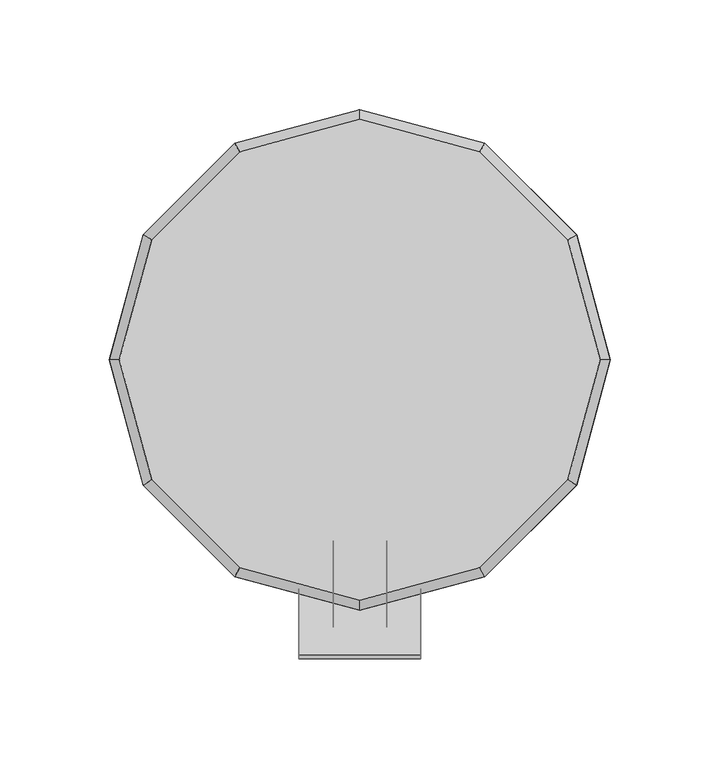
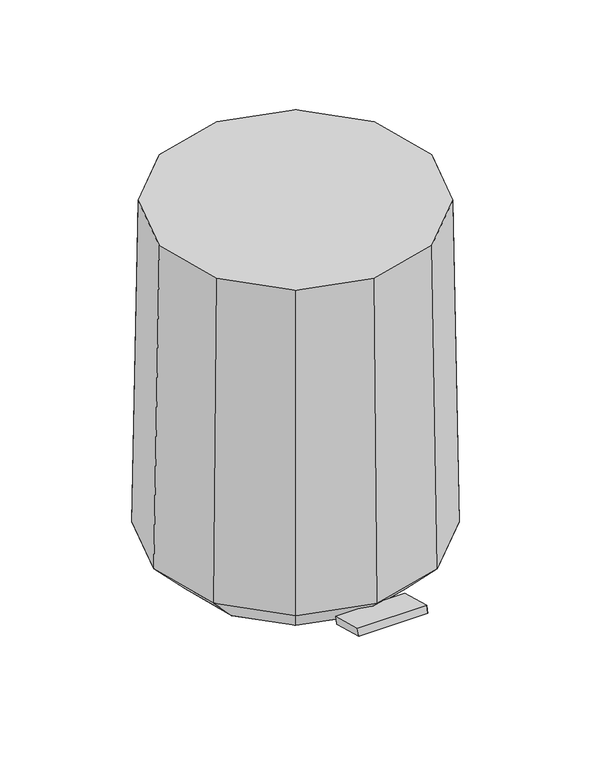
"""IFC4 building model written with IfcOpenShell, lengths in millimetres: geographic element geometry, Enscape AssetDefinition - Garbage Can 006 Bathroom : Enscape AssetDefinition - Garbage Can 006 Bathroom."""

from ifc_helpers import new_model, si_unit, origin, place, context, project, spatial, triangles, source, transform, mapped, element, save


def geographic_element_73b1dc01(model_context):
    return source(origin(), model_context, "Body", "Tessellation", [
        triangles([(114.346963, 0.0, 25.8838216), (99.0271041, 57.1731272, 25.8838216), (95.0701509, 54.8886918, 300.0000205), (88.8908587, 0.0, 0.0), (109.7773836, 0.0, 300.0000205), (76.9816202, -44.4454294, 0.0), (99.0271041, -57.1738312, 25.8838216), (57.1731272, -99.0271041, 25.8838216), (76.9816202, 44.4454294, 0.0), (44.4454294, 76.9816202, 0.0), (57.1731272, 99.0271041, 25.8838216), (0.0, 88.8908587, 0.0), (-44.4454294, 76.9816202, 0.0), (-54.8886918, 95.0701509, 300.0000205), (0.0, 109.7773836, 300.0000205), (0.0, 114.346963, 25.8838216), (-95.0701509, 54.8886918, 300.0000205), (54.8886918, 95.0701509, 300.0000205), (-99.0271041, 57.1731272, 25.8838216), (-57.1731272, 99.0271041, 25.8838216), (-76.9816202, 44.4454294, 0.0), (0.0, 0.0, 0.0), (-88.8908587, 0.0, 0.0), (-76.9816202, -44.4454294, 0.0), (-114.346963, 0.0, 25.8838216), (-99.0271041, -57.1731272, 25.8838216), (-44.4454294, -76.9816202, 0.0), (-57.1738312, -99.0271041, 25.8838216), (0.0, -88.8908587, 0.0), (-109.7773836, 0.0, 300.0000205), (-95.0701509, -54.8886918, 300.0000205), (-54.8886918, -95.0701509, 300.0000205), (0.0, -109.7773836, 300.0000205), (54.8886918, -95.0701509, 300.0000205), (0.0, -114.346963, 25.8838216), (95.0701509, -54.8886918, 300.0000205), (44.4454294, -76.9816202, 0.0), (27.9100924, -106.0695158, 12.678858), (27.9100924, -136.3987147, 20.8055796), (27.9100924, -104.440273, 18.7597708), (27.9100924, -134.7687815, 26.8864902), (-27.9100924, -106.0695158, 12.678858), (-27.9100924, -136.3987147, 20.8055796), (-27.9100924, -104.440273, 18.7597708), (-27.9100924, -134.7687815, 26.8864902), (-12.2106657, -120.2178528, 14.6960597), (-12.2106657, -83.1511473, 2.8852061), (12.2106657, -83.1511473, 2.8852061), (-12.2106657, -122.2078385, 19.013053), (-12.2106657, -82.5336341, 6.3739682), (12.2106657, -122.2078385, 19.013053), (12.2106657, -82.5336341, 6.3739682), (12.2106657, -120.2178528, 14.6960597)], [[53, 48, 52], [52, 51, 53], [51, 52, 50], [50, 49, 51], [51, 49, 46], [46, 53, 51], [48, 53, 46], [46, 47, 48], [49, 50, 47], [47, 46, 49], [45, 41, 40], [40, 44, 45], [45, 44, 42], [41, 45, 43], [42, 43, 45], [40, 41, 39], [43, 39, 41], [44, 40, 38], [38, 42, 44], [39, 38, 40], [43, 42, 38], [38, 39, 43], [8, 37, 6], [37, 8, 35], [36, 34, 8], [34, 33, 35], [35, 8, 34], [18, 30, 34], [30, 32, 34], [32, 33, 34], [30, 31, 32], [33, 32, 28], [28, 35, 33], [35, 29, 37], [29, 35, 28], [28, 27, 29], [27, 28, 26], [32, 31, 26], [26, 28, 32], [31, 30, 25], [25, 26, 31], [26, 24, 27], [24, 26, 25], [27, 24, 22], [29, 27, 22], [37, 29, 22], [6, 37, 22], [25, 23, 24], [24, 23, 22], [23, 25, 19], [30, 17, 19], [19, 25, 30], [19, 21, 23], [23, 21, 22], [21, 13, 22], [20, 13, 21], [21, 19, 20], [20, 19, 17], [18, 14, 30], [14, 17, 30], [17, 14, 20], [18, 15, 14], [13, 20, 16], [14, 15, 16], [16, 20, 14], [16, 12, 13], [13, 12, 22], [12, 16, 11], [15, 18, 11], [11, 16, 15], [2, 11, 18], [11, 10, 12], [10, 11, 2], [12, 10, 22], [2, 9, 10], [10, 9, 22], [4, 6, 22], [9, 4, 22], [7, 6, 4], [6, 7, 8], [8, 7, 36], [36, 5, 34], [5, 18, 34], [5, 36, 7], [5, 3, 18], [18, 3, 2], [4, 1, 7], [1, 4, 9], [9, 2, 1], [7, 1, 5], [3, 5, 1], [1, 2, 3]], closed=False),
    ])


if __name__ == "__main__":
    model = new_model("IFC4")
    model_context = context("Model", 3, world=origin())
    ifc_project = project(units=[si_unit("LENGTHUNIT", "METRE", prefix="MILLI")], contexts=[model_context])
    site = spatial("IfcSite", under=ifc_project)
    building = spatial("IfcBuilding", under=site)
    placement = place(None, origin())
    geographic_element_shape = geographic_element_73b1dc01(model_context)
    element("IfcGeographicElement", 1, ObjectType="Enscape AssetDefinition - Garbage Can 006 Bathroom : Enscape AssetDefinition - Garbage Can 006 Bathroom", at=placement, inside=building, context=model_context, shape_type="MappedRepresentation", body=[
        mapped(geographic_element_shape, transform((0.0, 0.0, 0.0), x_axis=(1.0, 0.0, 0.0), y_axis=(0.0, 1.0, 0.0), z_axis=(0.0, 0.0, 1.0))),
    ])
    save(model, "model.ifc")
